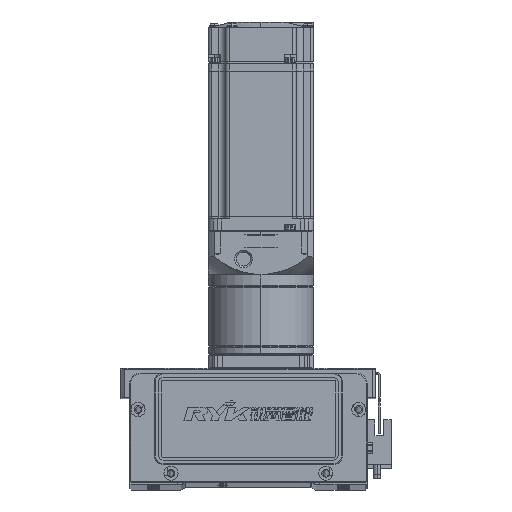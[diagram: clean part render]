
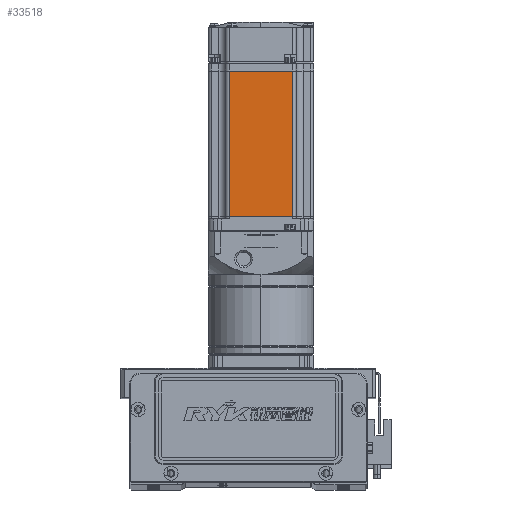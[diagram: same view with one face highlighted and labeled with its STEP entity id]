
A CAD part, top view. The second image highlights one B-rep face of the part: STEP entity #33518.
In plain terms, the highlighted planar face has unit normal (0, 0, 1).
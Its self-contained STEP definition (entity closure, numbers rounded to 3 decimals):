
#4709 = VECTOR ( 'NONE', #6345, 1000. ) ;
#5638 = EDGE_LOOP ( 'NONE', ( #81004, #60562, #59422, #42059 ) ) ;
#6345 = DIRECTION ( 'NONE',  ( 0., -1., 0. ) ) ;
#10358 = CARTESIAN_POINT ( 'NONE',  ( -7.75, 0., 30. ) ) ;
#10788 = CARTESIAN_POINT ( 'NONE',  ( -90.45, 18., 30. ) ) ;
#12989 = FACE_OUTER_BOUND ( 'NONE', #5638, .T. ) ;
#13367 = LINE ( 'NONE', #49204, #31187 ) ;
#18132 = CARTESIAN_POINT ( 'NONE',  ( -7.75, -18., 30. ) ) ;
#22008 = VERTEX_POINT ( 'NONE', #10788 ) ;
#25495 = EDGE_CURVE ( 'NONE', #22008, #34899, #38368, .T. ) ;
#25613 = PLANE ( 'NONE',  #76931 ) ;
#31187 = VECTOR ( 'NONE', #55346, 1000. ) ;
#33275 = VERTEX_POINT ( 'NONE', #18132 ) ;
#33518 = ADVANCED_FACE ( 'NONE', ( #12989 ), #25613, .T. ) ;
#34899 = VERTEX_POINT ( 'NONE', #35242 ) ;
#35242 = CARTESIAN_POINT ( 'NONE',  ( -90.45, -18., 30. ) ) ;
#37766 = CARTESIAN_POINT ( 'NONE',  ( -6.5, 18., 30. ) ) ;
#38368 = LINE ( 'NONE', #69457, #4709 ) ;
#40058 = DIRECTION ( 'NONE',  ( 0., 0., 1. ) ) ;
#40339 = DIRECTION ( 'NONE',  ( 1., 0., 0. ) ) ;
#42059 = ORIENTED_EDGE ( 'NONE', *, *, #59598, .F. ) ;
#48070 = EDGE_CURVE ( 'NONE', #52510, #22008, #79230, .T. ) ;
#49204 = CARTESIAN_POINT ( 'NONE',  ( -6.5, -18., 30. ) ) ;
#52280 = EDGE_CURVE ( 'NONE', #52510, #33275, #58610, .T. ) ;
#52510 = VERTEX_POINT ( 'NONE', #68158 ) ;
#54056 = DIRECTION ( 'NONE',  ( 0., -1., 0. ) ) ;
#55346 = DIRECTION ( 'NONE',  ( -1., 0., 0. ) ) ;
#56660 = VECTOR ( 'NONE', #54056, 1000. ) ;
#58610 = LINE ( 'NONE', #10358, #56660 ) ;
#59422 = ORIENTED_EDGE ( 'NONE', *, *, #25495, .T. ) ;
#59598 = EDGE_CURVE ( 'NONE', #33275, #34899, #13367, .T. ) ;
#60562 = ORIENTED_EDGE ( 'NONE', *, *, #48070, .T. ) ;
#62358 = VECTOR ( 'NONE', #62965, 1000. ) ;
#62965 = DIRECTION ( 'NONE',  ( -1., 0., 0. ) ) ;
#68158 = CARTESIAN_POINT ( 'NONE',  ( -7.75, 18., 30. ) ) ;
#69457 = CARTESIAN_POINT ( 'NONE',  ( -90.45, 0., 30. ) ) ;
#71891 = CARTESIAN_POINT ( 'NONE',  ( -6.5, -25., 30. ) ) ;
#76931 = AXIS2_PLACEMENT_3D ( 'NONE', #71891, #40058, #40339 ) ;
#79230 = LINE ( 'NONE', #37766, #62358 ) ;
#81004 = ORIENTED_EDGE ( 'NONE', *, *, #52280, .F. ) ;
